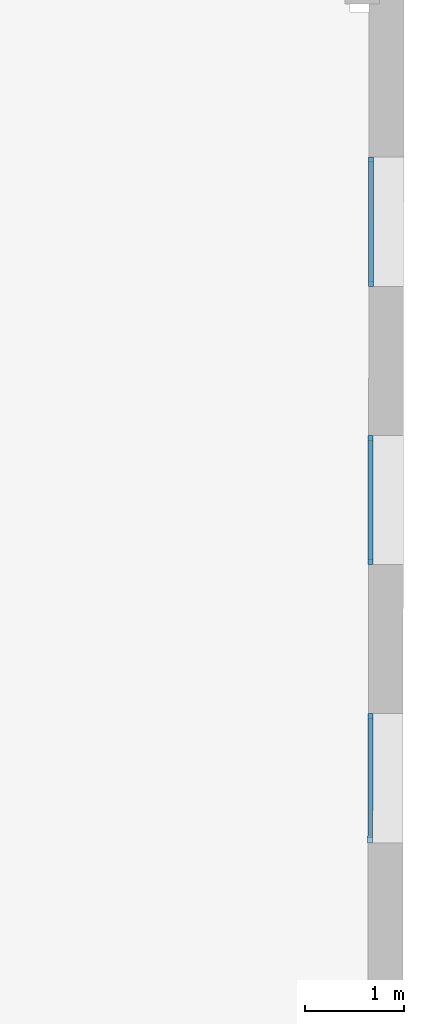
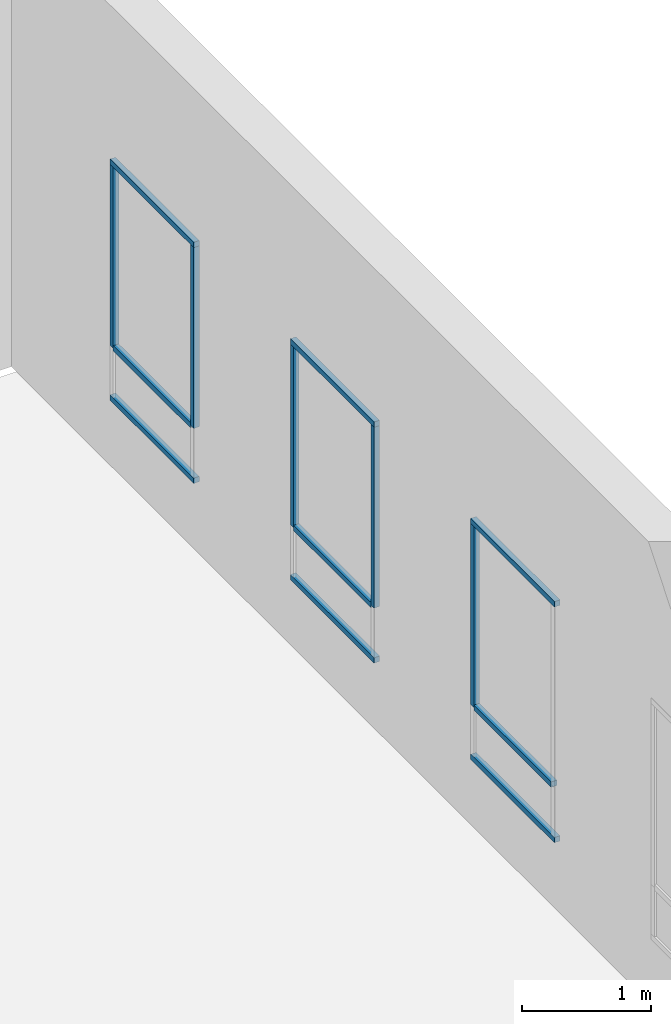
# One storey, part 11 of 35: 14 members, 3 elements without a shape of their own.
"""IFC2X3 building model written with IfcOpenShell, lengths in metres."""

from ifc_helpers import new_model, entity, si_unit, converted_unit, derived_unit, direction, frame, frame_2d, origin, origin_2d_with_axis, place, context, subcontext, project, spatial, rectangle, extrude, source, transform, mapped, material, type_object, type_shapes, element, aggregate, save


model = new_model("IFC2X3")

# Units and contexts
model_context = context("Model", 3, precision=1e-05, world=origin(), true_north=direction((6.123233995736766e-17, 1.0)))
body_context = subcontext(model_context, "Body", "Model", "MODEL_VIEW")
ifc_project = project(units=[si_unit("LENGTHUNIT", "METRE"), si_unit("AREAUNIT", "SQUARE_METRE"), converted_unit("PLANEANGLEUNIT", "DEGREE", entity("IfcPlaneAngleMeasure", 0.017453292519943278), si_unit("PLANEANGLEUNIT", "RADIAN"), dimensions=[0, 0, 0, 0, 0, 0, 0]), derived_unit("THERMALTRANSMITTANCEUNIT", [(si_unit("MASSUNIT", "GRAM", prefix="KILO"), 1), (si_unit("THERMODYNAMICTEMPERATUREUNIT", "KELVIN"), -1), (si_unit("TIMEUNIT", "SECOND"), -3)])], contexts=[model_context])

# Site, building, storey
site_placement = place(None, frame((1253.6752467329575, 2072.143113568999, 91.49999999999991), z_axis=(0.0, 0.0, 1.0), x_axis=(0.7237211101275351, 0.6900925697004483, 0.0)))
site = spatial("IfcSite", under=ifc_project, at=site_placement, Name="Surface", CompositionType="ELEMENT")
building_placement = place(site_placement, origin())
building = spatial("IfcBuilding", under=site, at=building_placement, CompositionType="ELEMENT")
storey_placement = place(building_placement, frame((0.0, 0.0, 3.549999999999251)))
storey = spatial("IfcBuildingStorey", under=building, at=storey_placement, Name="1-R+1", CompositionType="ELEMENT", Elevation=3.549999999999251)

# Curtain wall, member
curtain_wall_type = type_object("IfcCurtainWallType", Name="Mur-rideau:Menuiserie Ext 1F+1OB VERTIC", PredefinedType="NOTDEFINED")
curtain_wall_1_placement = place(storey_placement, frame((0.0, 0.0, -3.549999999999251)))
curtain_wall_1 = element("IfcCurtainWall", 1, at=curtain_wall_1_placement, inside=storey, type_object=curtain_wall_type, Name="Mur-rideau:Menuiserie Ext 1F+1OB VERTIC", ObjectType="Mur-rideau:Menuiserie Ext 1F+1OB VERTIC")
ifc_material = material(Name="OMD_Aluminium Men Ext")
member_type_1 = type_object("IfcMemberType", Name="Meneau rectangulaire:50x50", PredefinedType="MULLION", material=ifc_material)
shared_shape_1 = source(origin(), body_context, "Body", "SweptSolid", [
    extrude(rectangle(XDim=0.05, YDim=0.049999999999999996, at=origin_2d_with_axis()), frame((-0.025, 0.0, -1.2996959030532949), z_axis=(0.0, 0.0, 1.0), x_axis=(-1.0, 0.0, 0.0)), (0.0, 0.0, 1.0), 1.2996959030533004),
])
type_shapes(member_type_1, [shared_shape_1])
member_1_placement = place(curtain_wall_1_placement, frame((194.64624495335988, -13.201600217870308, 6.4499999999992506), z_axis=(0.6909838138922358, 0.7228702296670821, 0.0), x_axis=(0.0, 0.0, 1.0)))
member_1 = element("IfcMember", 2, at=member_1_placement, type_object=member_type_1, material=ifc_material, Name="Meneau rectangulaire:50x50", ObjectType="Meneau rectangulaire:50x50", context=body_context, shape_type="MappedRepresentation", body=[
    mapped(shared_shape_1, transform((0.0, 0.0, 0.0), scale=1.0)),
])

curtain_wall_2_placement = place(storey_placement, frame((0.0, 0.0, -3.549999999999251)))
curtain_wall_2 = element("IfcCurtainWall", 3, at=curtain_wall_2_placement, inside=storey, type_object=curtain_wall_type, Name="Mur-rideau:Menuiserie Ext 1F+1OB VERTIC", ObjectType="Mur-rideau:Menuiserie Ext 1F+1OB VERTIC")
member_2_placement = place(curtain_wall_2_placement, frame((192.71149027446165, -15.225636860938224, 6.4499999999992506), z_axis=(0.690983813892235, 0.7228702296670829, 0.0), x_axis=(0.0, 0.0, 1.0)))
member_2 = element("IfcMember", 4, at=member_2_placement, type_object=member_type_1, material=ifc_material, Name="Meneau rectangulaire:50x50", ObjectType="Meneau rectangulaire:50x50", context=body_context, shape_type="MappedRepresentation", body=[
    mapped(shared_shape_1, transform((0.0, 0.0, 0.0), scale=1.0)),
])

curtain_wall_3_placement = place(storey_placement, frame((0.0, 0.0, -3.549999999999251)))
curtain_wall_3 = element("IfcCurtainWall", 5, at=curtain_wall_3_placement, inside=storey, type_object=curtain_wall_type, Name="Mur-rideau:Menuiserie Ext 1F+1OB VERTIC", ObjectType="Mur-rideau:Menuiserie Ext 1F+1OB VERTIC")
member_3_placement = place(curtain_wall_3_placement, frame((190.7767355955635, -17.249673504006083, 6.4499999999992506), z_axis=(0.6909838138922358, 0.7228702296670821, 0.0), x_axis=(0.0, 0.0, 1.0)))
member_3 = element("IfcMember", 6, at=member_3_placement, type_object=member_type_1, material=ifc_material, Name="Meneau rectangulaire:50x50", ObjectType="Meneau rectangulaire:50x50", context=body_context, shape_type="MappedRepresentation", body=[
    mapped(shared_shape_1, transform((0.0, 0.0, 0.0), scale=1.0)),
])

# Member
member_type_2 = type_object("IfcMemberType", Name="Meneau rectangulaire:50x50", PredefinedType="MULLION", material=ifc_material)
shared_shape_2 = source(origin(), body_context, "Body", "SweptSolid", [
    extrude(rectangle(XDim=0.05, YDim=0.05, at=origin_2d_with_axis()), frame((-0.025, 0.0, -1.2996959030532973), z_axis=(0.0, 0.0, 1.0), x_axis=(-1.0, 0.0, 0.0)), (0.0, 0.0, 1.0), 1.2996959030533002),
])
type_shapes(member_type_2, [shared_shape_2])
member_4_placement = place(curtain_wall_1_placement, frame((193.74817612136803, -14.141111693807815, 4.169999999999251), z_axis=(-0.6909838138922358, -0.7228702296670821, 0.0), x_axis=(0.0, 0.0, -1.0)))
member_4 = element("IfcMember", 7, at=member_4_placement, type_object=member_type_2, material=ifc_material, Name="Meneau rectangulaire:50x50", ObjectType="Meneau rectangulaire:50x50", context=body_context, shape_type="MappedRepresentation", body=[
    mapped(shared_shape_2, transform((0.0, 0.0, 0.0), scale=1.0)),
])

member_5_placement = place(curtain_wall_2_placement, frame((191.8134214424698, -16.165148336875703, 4.169999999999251), z_axis=(-0.690983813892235, -0.7228702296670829, 0.0), x_axis=(0.0, 0.0, -1.0)))
member_5 = element("IfcMember", 8, at=member_5_placement, type_object=member_type_2, material=ifc_material, Name="Meneau rectangulaire:50x50", ObjectType="Meneau rectangulaire:50x50", context=body_context, shape_type="MappedRepresentation", body=[
    mapped(shared_shape_2, transform((0.0, 0.0, 0.0), scale=1.0)),
])

member_6_placement = place(curtain_wall_3_placement, frame((189.87866676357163, -18.18918497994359, 4.169999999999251), z_axis=(-0.6909838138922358, -0.7228702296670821, 0.0), x_axis=(0.0, 0.0, -1.0)))
member_6 = element("IfcMember", 9, at=member_6_placement, type_object=member_type_2, material=ifc_material, Name="Meneau rectangulaire:50x50", ObjectType="Meneau rectangulaire:50x50", context=body_context, shape_type="MappedRepresentation", body=[
    mapped(shared_shape_2, transform((0.0, 0.0, 0.0), scale=1.0)),
])

member_type_3 = type_object("IfcMemberType", Name="Meneau rectangulaire:50x50", PredefinedType="MULLION", material=ifc_material)
shared_shape_3 = source(origin(), body_context, "Body", "SweptSolid", [
    extrude(rectangle(XDim=0.05, YDim=0.049999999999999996, at=origin_2d_with_axis()), frame((-0.025, 0.0, -1.7099999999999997), z_axis=(0.0, 0.0, 1.0), x_axis=(-1.0, 0.0, 0.0)), (0.0, 0.0, 1.0), 1.7099999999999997),
])
type_shapes(member_type_3, [shared_shape_3])
member_7_placement = place(curtain_wall_1_placement, frame((193.74817612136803, -14.14111169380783, 6.399999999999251), z_axis=(0.0, 0.0, 1.0), x_axis=(-0.6909838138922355, -0.7228702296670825, 0.0)))
member_7 = element("IfcMember", 10, at=member_7_placement, type_object=member_type_3, material=ifc_material, Name="Meneau rectangulaire:50x50", ObjectType="Meneau rectangulaire:50x50", context=body_context, shape_type="MappedRepresentation", body=[
    mapped(shared_shape_3, transform((0.0, 0.0, 0.0), scale=1.0)),
])

member_8_placement = place(curtain_wall_2_placement, frame((191.8134214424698, -16.16514833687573, 6.399999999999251), z_axis=(0.0, 0.0, 1.0), x_axis=(-0.6909838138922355, -0.7228702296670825, 0.0)))
member_8 = element("IfcMember", 11, at=member_8_placement, type_object=member_type_3, material=ifc_material, Name="Meneau rectangulaire:50x50", ObjectType="Meneau rectangulaire:50x50", context=body_context, shape_type="MappedRepresentation", body=[
    mapped(shared_shape_3, transform((0.0, 0.0, 0.0), scale=1.0)),
])

member_type_4 = type_object("IfcMemberType", Name="Meneau rectangulaire:50x50", PredefinedType="MULLION", material=ifc_material)
shared_shape_4 = source(origin(), body_context, "Body", "SweptSolid", [
    extrude(rectangle(XDim=0.05, YDim=0.049999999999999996, at=origin_2d_with_axis()), frame((-0.025, 0.0, -1.7099999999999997), z_axis=(0.0, 0.0, 1.0), x_axis=(-1.0, 0.0, 0.0)), (0.0, 0.0, 1.0), 1.7099999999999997),
])
type_shapes(member_type_4, [shared_shape_4])
member_9_placement = place(curtain_wall_1_placement, frame((194.64624495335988, -13.201600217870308, 4.689999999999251), z_axis=(0.0, 0.0, -1.0), x_axis=(0.6909838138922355, 0.7228702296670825, 0.0)))
member_9 = element("IfcMember", 12, at=member_9_placement, type_object=member_type_4, material=ifc_material, Name="Meneau rectangulaire:50x50", ObjectType="Meneau rectangulaire:50x50", context=body_context, shape_type="MappedRepresentation", body=[
    mapped(shared_shape_4, transform((0.0, 0.0, 0.0), scale=1.0)),
])

member_10_placement = place(curtain_wall_2_placement, frame((192.71149027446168, -15.225636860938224, 4.689999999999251), z_axis=(0.0, 0.0, -1.0), x_axis=(0.6909838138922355, 0.7228702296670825, 0.0)))
member_10 = element("IfcMember", 13, at=member_10_placement, type_object=member_type_4, material=ifc_material, Name="Meneau rectangulaire:50x50", ObjectType="Meneau rectangulaire:50x50", context=body_context, shape_type="MappedRepresentation", body=[
    mapped(shared_shape_4, transform((0.0, 0.0, 0.0), scale=1.0)),
])

member_11_placement = place(curtain_wall_3_placement, frame((190.77673559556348, -17.249673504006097, 4.689999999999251), z_axis=(0.0, 0.0, -1.0), x_axis=(0.6909838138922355, 0.7228702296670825, 0.0)))
member_11 = element("IfcMember", 14, at=member_11_placement, type_object=member_type_4, material=ifc_material, Name="Meneau rectangulaire:50x50", ObjectType="Meneau rectangulaire:50x50", context=body_context, shape_type="MappedRepresentation", body=[
    mapped(shared_shape_4, transform((0.0, 0.0, 0.0), scale=1.0)),
])

member_type_5 = type_object("IfcMemberType", Name="Meneau rectangulaire:50x50", PredefinedType="MULLION", material=ifc_material)
shared_shape_5 = source(origin(), body_context, "Body", "SweptSolid", [
    extrude(rectangle(XDim=0.05, YDim=0.05, at=frame_2d((0.0, -1.734723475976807e-18), x_axis=(1.0, 0.0))), frame((0.0, 0.0, -1.1996959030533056), z_axis=(0.0, 0.0, 1.0), x_axis=(-1.0, 0.0, 0.0)), (0.0, 0.0, 1.0), 1.1996959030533),
])
type_shapes(member_type_5, [shared_shape_5])
member_12_placement = place(curtain_wall_1_placement, frame((194.61169576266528, -13.237743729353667, 4.689999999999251), z_axis=(0.6909838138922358, 0.7228702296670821, 0.0), x_axis=(0.0, 0.0, 1.0)))
member_12 = element("IfcMember", 15, at=member_12_placement, type_object=member_type_5, material=ifc_material, Name="Meneau rectangulaire:50x50", ObjectType="Meneau rectangulaire:50x50", context=body_context, shape_type="MappedRepresentation", body=[
    mapped(shared_shape_5, transform((0.0, 0.0, 0.0), scale=1.0)),
])

aggregate(curtain_wall_1, [member_1, member_4, member_7, member_9, member_12])

member_13_placement = place(curtain_wall_2_placement, frame((192.67694108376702, -15.261780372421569, 4.689999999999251), z_axis=(0.690983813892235, 0.7228702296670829, 0.0), x_axis=(0.0, 0.0, 1.0)))
member_13 = element("IfcMember", 16, at=member_13_placement, type_object=member_type_5, material=ifc_material, Name="Meneau rectangulaire:50x50", ObjectType="Meneau rectangulaire:50x50", context=body_context, shape_type="MappedRepresentation", body=[
    mapped(shared_shape_5, transform((0.0, 0.0, 0.0), scale=1.0)),
])

aggregate(curtain_wall_2, [member_2, member_5, member_8, member_10, member_13])

member_14_placement = place(curtain_wall_3_placement, frame((190.7421864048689, -17.285817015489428, 4.689999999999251), z_axis=(0.6909838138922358, 0.7228702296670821, 0.0), x_axis=(0.0, 0.0, 1.0)))
member_14 = element("IfcMember", 17, at=member_14_placement, type_object=member_type_5, material=ifc_material, Name="Meneau rectangulaire:50x50", ObjectType="Meneau rectangulaire:50x50", context=body_context, shape_type="MappedRepresentation", body=[
    mapped(shared_shape_5, transform((0.0, 0.0, 0.0), scale=1.0)),
])

aggregate(curtain_wall_3, [member_3, member_6, member_11, member_14])

save(model, "model.ifc")
